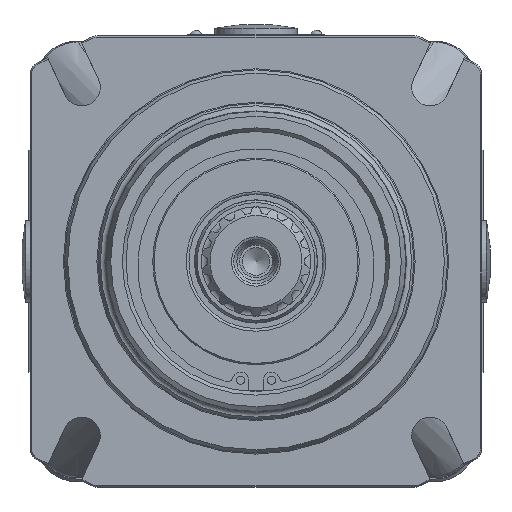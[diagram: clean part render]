
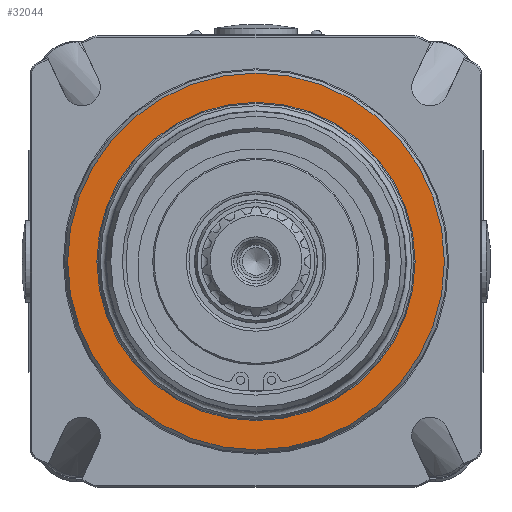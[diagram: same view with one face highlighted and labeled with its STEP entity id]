
A CAD part, front view. The second image highlights one B-rep face of the part: STEP entity #32044.
In plain terms, the highlighted planar face has unit normal (0, -1, 0).
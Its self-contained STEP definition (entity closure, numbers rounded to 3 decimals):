
#6525=PLANE('',#34365);
#7278=FACE_BOUND('',#9986,.T.);
#8025=FACE_OUTER_BOUND('',#9985,.T.);
#9985=EDGE_LOOP('',(#22536));
#9986=EDGE_LOOP('',(#22537));
#12049=CIRCLE('',#34362,68.845);
#12051=CIRCLE('',#34366,58.15);
#13589=VERTEX_POINT('',#52477);
#13591=VERTEX_POINT('',#52483);
#16939=EDGE_CURVE('',#13589,#13589,#12049,.T.);
#16941=EDGE_CURVE('',#13591,#13591,#12051,.T.);
#22536=ORIENTED_EDGE('',*,*,#16939,.T.);
#22537=ORIENTED_EDGE('',*,*,#16941,.F.);
#32044=ADVANCED_FACE('',(#8025,#7278),#6525,.F.);
#34362=AXIS2_PLACEMENT_3D('',#52478,#38709,#38710);
#34365=AXIS2_PLACEMENT_3D('',#52482,#38715,#38716);
#34366=AXIS2_PLACEMENT_3D('',#52484,#38717,#38718);
#38709=DIRECTION('center_axis',(0.,-1.,0.));
#38710=DIRECTION('ref_axis',(0.,0.,1.));
#38715=DIRECTION('center_axis',(0.,1.,0.));
#38716=DIRECTION('ref_axis',(0.,0.,1.));
#38717=DIRECTION('center_axis',(0.,-1.,0.));
#38718=DIRECTION('ref_axis',(0.,0.,-1.));
#52477=CARTESIAN_POINT('',(0.,-136.,68.845));
#52478=CARTESIAN_POINT('Origin',(0.,-136.,0.));
#52482=CARTESIAN_POINT('Origin',(0.,-136.,63.298));
#52483=CARTESIAN_POINT('',(0.,-136.,58.15));
#52484=CARTESIAN_POINT('Origin',(0.,-136.,0.));
